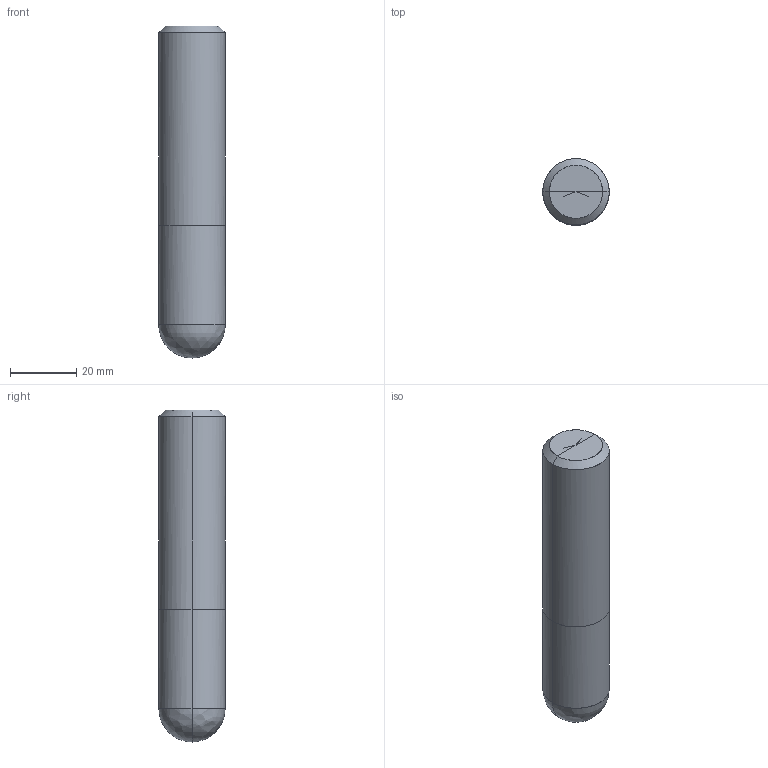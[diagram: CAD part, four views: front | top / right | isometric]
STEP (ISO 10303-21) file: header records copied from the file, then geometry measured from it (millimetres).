
FILE_DESCRIPTION(/* description */ (''),/* implementation_level */ '2;1');
FILE_NAME(/*name*/ '2172-20',/*time_stamp*/'2021-4-23T10:51:24',/*author*/ ('ISBE GmbH'),/*organization*/ ('ISBE GmbH'),/*preprocessor_version*/ 'STEP IO v1.0',/*originating_system*/ '',/*authorisation*/ '');
FILE_SCHEMA (('AUTOMOTIVE_DESIGN'));
Length unit declared in the file: millimetre
Products named in the file (1): Document
Bounding box: 20 x 19.99 x 100 mm (x, y, z)
Surface area: 7156.9 mm2 (no closed solid volume)
Topology: 0 solids, 14 shells, 14 faces, 58 edges, 52 vertices
Faces by surface type: bspline 14
Entity records: 1017 total; most frequent: CARTESIAN_POINT 752, VERTEX_POINT 48, EDGE_CURVE 48, ORIENTED_EDGE 48, DIRECTION 16, EDGE_LOOP 14, FACE_OUTER_BOUND 14, ADVANCED_FACE 14
